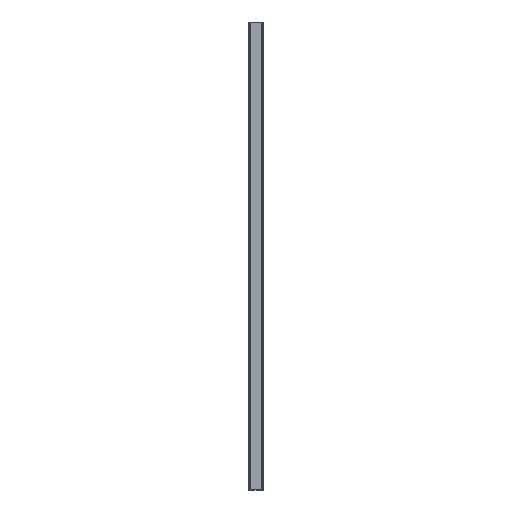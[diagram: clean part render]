
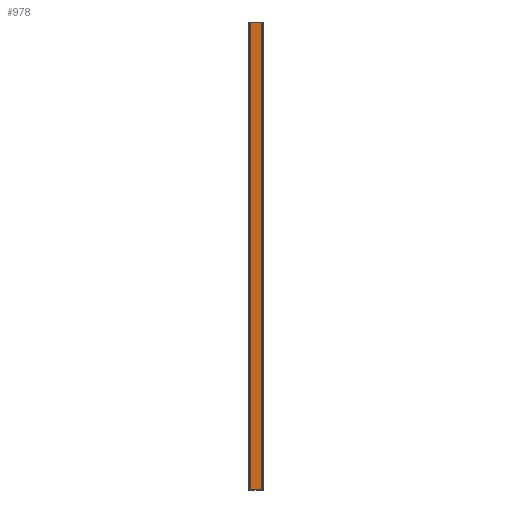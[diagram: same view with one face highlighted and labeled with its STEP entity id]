
A CAD part, top view. The second image highlights one B-rep face of the part: STEP entity #978.
In plain terms, the highlighted planar face has unit normal (0, 0, 1).
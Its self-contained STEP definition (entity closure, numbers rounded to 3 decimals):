
#32=FACE_OUTER_BOUND('',#82,.T.);
#82=EDGE_LOOP('',(#659,#660,#661,#662));
#142=LINE('',#1388,#278);
#143=LINE('',#1391,#279);
#144=LINE('',#1393,#280);
#145=LINE('',#1394,#281);
#278=VECTOR('',#1128,10.);
#279=VECTOR('',#1131,10.);
#280=VECTOR('',#1132,10.);
#281=VECTOR('',#1133,10.);
#409=VERTEX_POINT('',#1384);
#410=VERTEX_POINT('',#1386);
#411=VERTEX_POINT('',#1390);
#412=VERTEX_POINT('',#1392);
#510=EDGE_CURVE('',#409,#410,#142,.T.);
#511=EDGE_CURVE('',#411,#409,#143,.T.);
#512=EDGE_CURVE('',#412,#410,#144,.T.);
#513=EDGE_CURVE('',#411,#412,#145,.T.);
#659=ORIENTED_EDGE('',*,*,#511,.T.);
#660=ORIENTED_EDGE('',*,*,#510,.T.);
#661=ORIENTED_EDGE('',*,*,#512,.F.);
#662=ORIENTED_EDGE('',*,*,#513,.F.);
#932=PLANE('',#1048);
#978=ADVANCED_FACE('',(#32),#932,.T.);
#1048=AXIS2_PLACEMENT_3D('',#1389,#1129,#1130);
#1128=DIRECTION('',(0.,1.,0.));
#1129=DIRECTION('center_axis',(0.,0.,1.));
#1130=DIRECTION('ref_axis',(1.,0.,0.));
#1131=DIRECTION('',(1.,0.,0.));
#1132=DIRECTION('',(1.,0.,0.));
#1133=DIRECTION('',(0.,1.,0.));
#1384=CARTESIAN_POINT('',(14.1,0.,1.281));
#1386=CARTESIAN_POINT('',(14.1,1000.,1.281));
#1388=CARTESIAN_POINT('',(14.1,0.,1.281));
#1389=CARTESIAN_POINT('Origin',(-14.1,0.,1.281));
#1390=CARTESIAN_POINT('',(-14.1,0.,1.281));
#1391=CARTESIAN_POINT('',(-14.1,0.,1.281));
#1392=CARTESIAN_POINT('',(-14.1,1000.,1.281));
#1393=CARTESIAN_POINT('',(-14.1,1000.,1.281));
#1394=CARTESIAN_POINT('',(-14.1,0.,1.281));
